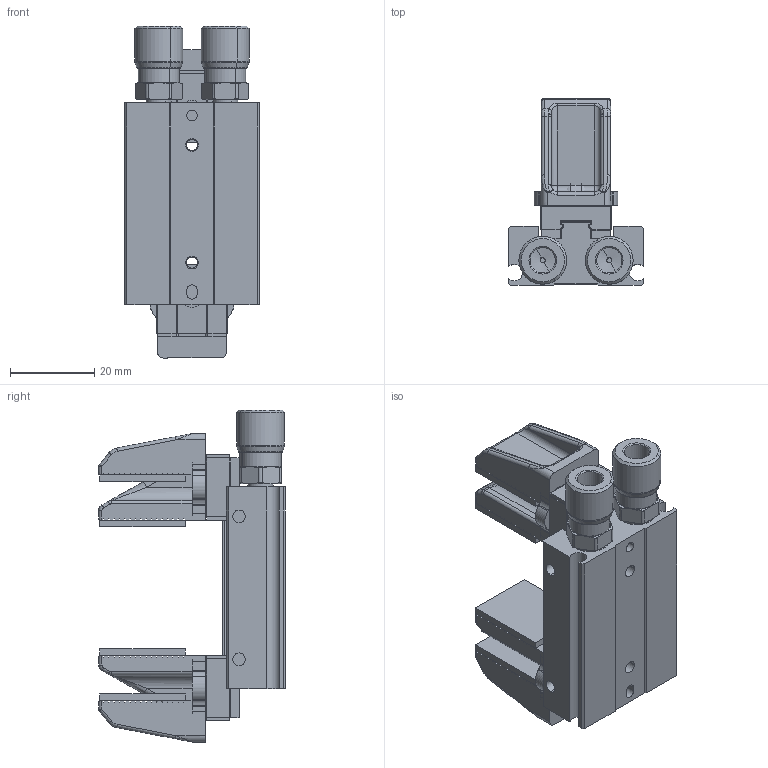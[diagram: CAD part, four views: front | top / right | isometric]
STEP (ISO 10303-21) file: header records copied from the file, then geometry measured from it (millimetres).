
FILE_DESCRIPTION (( 'STEP AP203' ), '1' );
FILE_NAME ('MHF2-8D1 gripper assembly.STEP', '2023-03-25T20:47:41', ( '' ), ( '' ), 'SwSTEP 2.0', 'SolidWorks 2017', '' );
FILE_SCHEMA (( 'CONFIG_CONTROL_DESIGN' ));
Length unit declared in the file: inch
Products named in the file (9): Finger2; Finger; Finger1; MHF2-8D1.step_MHFFinger_8D1; Pad; MHF2-8D1 gripper assembly; MHF2-8D1.step_MHFBody_8D1; 2333N194_Nickel-Plated Brass Push-to-Connect Fitting_2333N194
Assembly tree (13 placements, depth 3):
  MHF2-8D1 gripper assembly
    MHF2-8D1.step_MHFBody_8D1
    MHF2-8D1.step_MHFFinger_8D1  x2
    Finger1  x2
      Finger
      Pad
    Finger2  x2
      Finger2
      Pad
    2333N194_Nickel-Plated Brass Push-to-Connect Fitting_2333N194  x2
Bounding box: 32 x 44.4 x 78.99 mm (x, y, z)
Volume: 16112.7 mm3; surface area: 24040.8 mm2
Topology: 12 solids, 15 shells, 956 faces, 2414 edges, 1526 vertices
Faces by surface type: plane 492, cylinder 298, cone 62, torus 62, bspline 30, sphere 12
Entity records: 18549 total; most frequent: CARTESIAN_POINT 4281, DIRECTION 2806, ORIENTED_EDGE 2726, EDGE_CURVE 1363, AXIS2_PLACEMENT_3D 997, VERTEX_POINT 869, VECTOR 812, LINE 812
